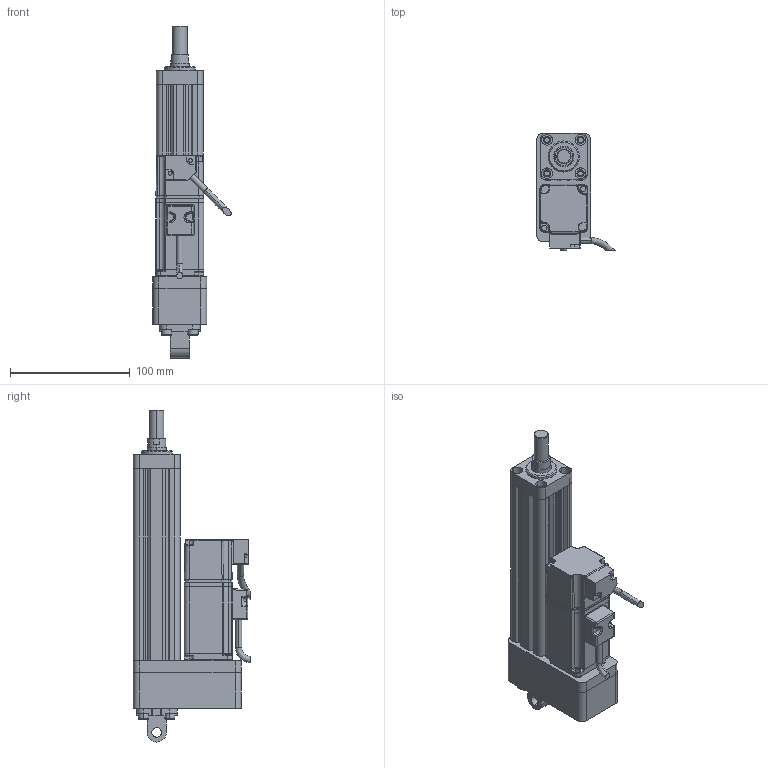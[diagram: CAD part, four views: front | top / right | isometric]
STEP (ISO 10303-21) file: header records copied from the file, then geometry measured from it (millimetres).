
FILE_DESCRIPTION (( 'STEP AP214' ), '1' );
FILE_NAME ('039-S100-D02-B-M5-C1-2.STEP', '2021-03-02T05:06:08', ( '' ), ( '' ), 'SwSTEP 2.0', 'SolidWorks 2018', '' );
FILE_SCHEMA (( 'AUTOMOTIVE_DESIGN' ));
Length unit declared in the file: millimetre
Products named in the file (8): F-ACE20CA_ACE_; CMC039-HXT; CMC039-FL; CMC039-DT; 039-S100-D02-B-M5-C1-2; ECMA-CX0401ES-40框號系列機種-100W低慣量系列; CMC039-LJB; CMC039-GT
Assembly tree (7 placements, depth 2):
  039-S100-D02-B-M5-C1-2
    CMC039-GT
    CMC039-LJB
    CMC039-FL
    CMC039-DT
    ECMA-CX0401ES-40框號系列機種-100W低慣量系列
    CMC039-HXT
    F-ACE20CA_ACE_
Bounding box: 65.34 x 97.89 x 277 mm (x, y, z)
Volume: 432194.5 mm3; surface area: 130718.7 mm2
Topology: 7 solids, 15 shells, 765 faces, 1996 edges, 1251 vertices
Faces by surface type: cylinder 321, plane 303, bspline 92, cone 49
Entity records: 29810 total; most frequent: CARTESIAN_POINT 11648, ORIENTED_EDGE 3926, DIRECTION 3331, EDGE_CURVE 1963, VERTEX_POINT 1251, AXIS2_PLACEMENT_3D 1181, LINE 969, VECTOR 969
